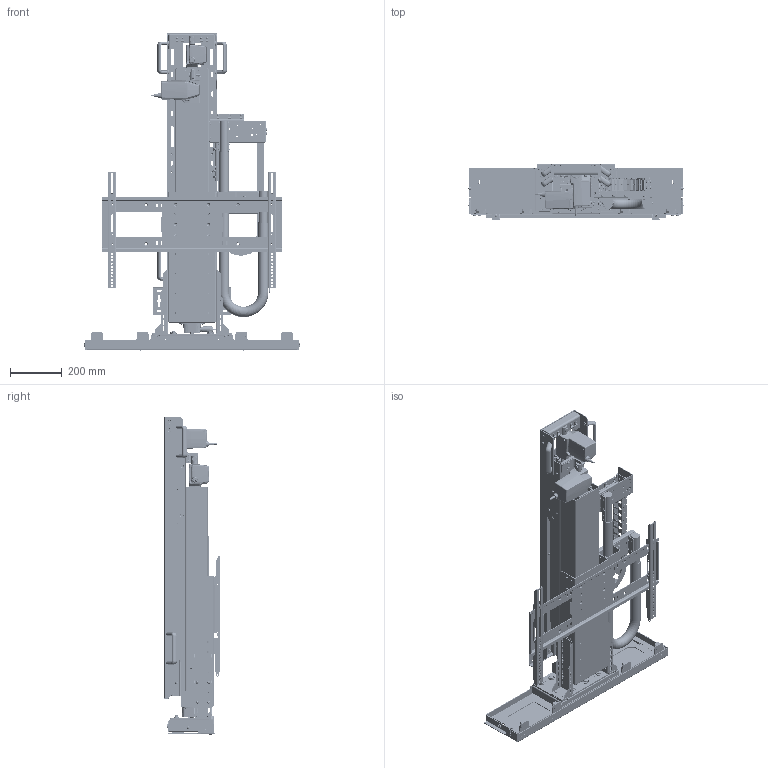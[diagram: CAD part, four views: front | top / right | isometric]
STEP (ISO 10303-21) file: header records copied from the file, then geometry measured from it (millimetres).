
FILE_DESCRIPTION(/* description */ ('STEP AP242','CAx-IF Rec.Pracs.---Representation and Presentation of Product Manufacturing Information (PMI)---4.0---2014-10-13','CAx-IF Rec.Pracs.---3D Tessellated Geometry---0.4---2014-09-14','2;1'),/* implementation_level */ '2;1');
FILE_NAME(/* name */ '64b01aac1b8c9b31e18c7abe',/* time_stamp */ '2023-07-13T15:39:33Z',/* author */ (''),/* organization */ (''),/* preprocessor_version */ 'ST-DEVELOPER v19.4',/* originating_system */ ' ',/* authorisation */ ' ');
FILE_SCHEMA (('AP242_MANAGED_MODEL_BASED_3D_ENGINEERING_MIM_LF { 1 0 10303 442 1 1 4 }'));
Products named in the file (189): L-77i Main Assm; Hex socket countersunk head screw M6x1 x 12; Socket button head screw M6x1 x 12; Socket button head screw M4x0.7 x 6; L-77i Snakeskin; OPU-NX-002 -- L77OPU Lid Support w/ PEMs <1>; PEM CLS-M6-00  ; ULS-NX-038 -- ULS HD LID SUPPORT SHORT; CMB2 Asm (1) <1>; PEM CLS-M6-1; CMB4; PEM Nut CLSS-M5-1; CMB5 Asm (3) <1>; PEM Nut F-M4-2; CMB5; CMB2; HD-22FMMT (1) <1>; GASKET-22_GASKET-22_08; SCREWS-SS7-8_SCREWS-SS7-8_2; HD-22xC_HD-22CMBT; HD-22B_HD-22BFMB; Socket Button M4_8; Cable Gland 01; DS1; Second Stage Sub Assm <1>; M6x12 Button Socket Cap; IGUS Guide Rail Second Stage; M5_12 Button Socket Cap; Flat-Head Quick-Release Pins MC PN90156A619; M5 Split Lock Washer; M6x20 Low Head Socket Cap; Second Stage Front Fixture Mount; Second Stage Column; M6 x12 Flathead Bolt; OPU Screen Support Mount Plate; L31 Piston; M6 Split Lock Washer; SS Fixed Short - Rev B2 <1>; PS Screen Support Fixed 01; L65 PS Adapter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
Assembly tree (783 placements, depth 5):
  L-77i Main Assm
    Hex socket countersunk head screw M6x1 x 12  x13
    Socket button head screw M6x1 x 12  x16
    Socket button head screw M4x0.7 x 6  x8
    L-77i Snakeskin
    OPU-NX-002 -- L77OPU Lid Support w/ PEMs <1>
      PEM CLS-M6-00    x2
      ULS-NX-038 -- ULS HD LID SUPPORT SHORT
    CMB2 Asm (1) <1>
      PEM CLS-M6-1  x4
      CMB4
      PEM Nut CLSS-M5-1  x2
      CMB5 Asm (3) <1>
        PEM Nut F-M4-2  x4
        CMB5
      PEM Nut F-M4-2
      CMB2
    HD-22FMMT (1) <1>
      GASKET-22_GASKET-22_08
      SCREWS-SS7-8_SCREWS-SS7-8_2  x4
      HD-22xC_HD-22CMBT
      HD-22B_HD-22BFMB
      Socket Button M4_8  x4
      HD-22xC_HD-22CMBT
      Cable Gland 01
      HD-22xC_HD-22CMBT
      HD-22xC_HD-22CMBT
      DS1
      Cable Gland 01
      HD-22B_HD-22BFMB
      HD-22xC_HD-22CMBT
    Second Stage Sub Assm <1>
      M6x12 Button Socket Cap  x6
      PEM CLS-M6-1  x2
      IGUS Guide Rail Second Stage  x2
      M5_12 Button Socket Cap  x14
      Flat-Head Quick-Release Pins MC PN90156A619
      M5 Split Lock Washer  x14
      M6x20 Low Head Socket Cap  x2
      Second Stage Front Fixture Mount
      Second Stage Column
      M6 x12 Flathead Bolt  x4
      OPU Screen Support Mount Plate
      L31 Piston
      M6 Split Lock Washer  x2
      L31 Piston
    SS Fixed Short - Rev B2 <1>
      PEM Nut F-M4-2  x8
      PEM CLS-M6-1  x42
      PEM Nut CLSS-M5-1  x2
      PS Screen Support Fixed 01
      L65 PS Adapter
    L-77i Cable Chain Assm <1>
      0_976m_Z14_3_075_0___114_3_12P_A1_5
      0_976m_Z14_3_075_0___114_3_12P_A1_5
      0_976m_Z14_3_075_0___114_3_12P_A1_5
      0_976m_Z14_3_075_0___114_3_12P_A1_5
      0_976m_Z14_3_075_0___114_3_12P_A1_5
      0_976m_Z14_3_075_0___114_3_12P_A1_5
      0_976m_Z14_3_075_0___114_3_12P_A1_5
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Bounding box: 834.88 x 220.19 x 1229.39 mm (x, y, z)
Volume: 17138198.1 mm3; surface area: 6831683.3 mm2
Topology: 743 solids, 748 shells, 24305 faces, 60785 edges, 39415 vertices
Faces by surface type: plane 14644, cylinder 5709, cone 1404, bspline 1359, torus 1059, sphere 130
Full cylindrical faces by diameter (mm): 0.2 x16, 0.512 x16, 0.55 x16, 2.088 x4, 2.261 x4, 2.5 x16, 2.642 x4, 2.8 x16, 2.845 x4, 3 x48, 3.175 x4, 3.3 x8, 3.505 x4, 3.658 x4, 3.683 x8, 3.912 x4, 4 x61, 4.2 x14, 4.242 x10, 4.3 x1, 4.37 x48, 4.496 x8, 4.75 x4, 4.9 x2, 4.917 x97, 5 x152, 5.026 x4, 5.08 x5, 5.127 x4, 5.277 x8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
Entity records: 310543 total; most frequent: CARTESIAN_POINT 97891, DIRECTION 42830, ORIENTED_EDGE 40868, EDGE_CURVE 20439, AXIS2_PLACEMENT_3D 15329, VERTEX_POINT 13696, LINE 12172, VECTOR 12172
